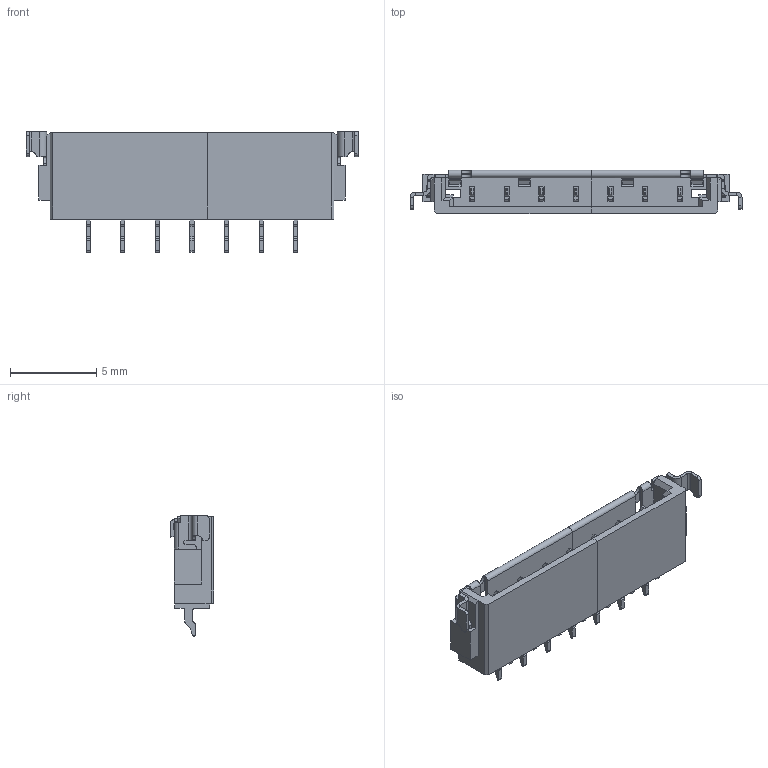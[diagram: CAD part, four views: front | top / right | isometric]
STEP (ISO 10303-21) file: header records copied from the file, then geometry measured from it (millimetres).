
FILE_DESCRIPTION((''),'2;1');
FILE_NAME('50477-007XX-XXX_ASM','2012-01-06T',('12221915'),(''),'PRO/ENGINEER BY PARAMETRIC TECHNOLOGY CORPORATION, 2009360','PRO/ENGINEER BY PARAMETRIC TECHNOLOGY CORPORATION, 2009360','');
FILE_SCHEMA(('CONFIG_CONTROL_DESIGN'));
Length unit declared in the file: millimetre
Products named in the file (13): 50477-008HXXX_12_1_AF1; 50477-TXXX_8_1; 50477-MXXX_31_1_AF1; 50477-008XX_ASM_1_ASM_1_AF1_ASM_ASM; 50477-008XX_ASM_1_ASM_ASM_ASM; 50477-1_ASM; 50477-008HXXX_12_1_AF0; PRT0001; 50477-MXXX_31_1_AF0; 50477-008XX_ASM_1_ASM_1_AF0_ASM_ASM; ASM0001_ASM; 50477-2_ASM; 50477-007XX-XXX_ASM
Assembly tree (17 placements, depth 5):
  50477-007XX-XXX_ASM
    50477-1_ASM
      50477-008XX_ASM_1_ASM_ASM_ASM
        50477-008XX_ASM_1_ASM_1_AF1_ASM_ASM
          50477-008HXXX_12_1_AF1
          50477-TXXX_8_1  x4
          50477-MXXX_31_1_AF1
    50477-2_ASM
      ASM0001_ASM
        50477-008XX_ASM_1_ASM_1_AF0_ASM_ASM
          50477-008HXXX_12_1_AF0
          PRT0001  x3
          50477-MXXX_31_1_AF0
Bounding box: 19.2 x 2.51 x 6.97 mm (x, y, z)
Volume: 124.5 mm3; surface area: 618.7 mm2
Topology: 11 solids, 11 shells, 775 faces, 2137 edges, 1372 vertices
Faces by surface type: plane 546, cylinder 229
Entity records: 17415 total; most frequent: CARTESIAN_POINT 3154, ORIENTED_EDGE 2964, DIRECTION 2904, EDGE_CURVE 1482, VECTOR 1172, LINE 1172, VERTEX_POINT 942, AXIS2_PLACEMENT_3D 866
